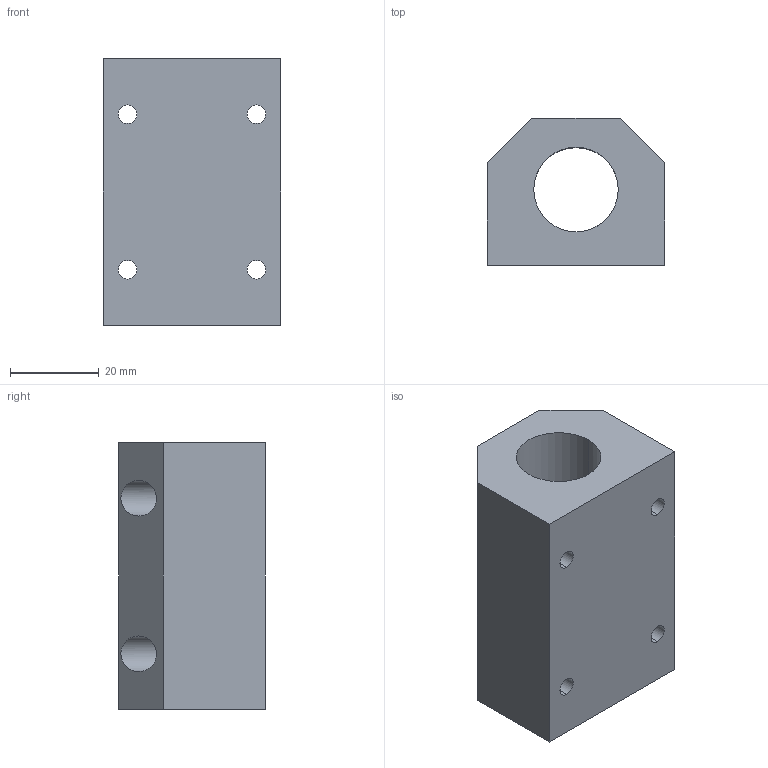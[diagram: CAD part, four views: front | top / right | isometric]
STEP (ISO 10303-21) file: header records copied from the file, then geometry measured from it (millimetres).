
FILE_DESCRIPTION (( 'STEP AP203' ), '1' );
FILE_NAME ('KTGC29-12-1.SLDPRT.step', '2020-05-14T12:46:30', ( '' ), ( '' ), 'SwSTEP 2.0', 'SolidWorks 2019', '' );
FILE_SCHEMA (( 'CONFIG_CONTROL_DESIGN' ));
Length unit declared in the file: millimetre
Products named in the file (2): KTGC29-12-1.SLDPRT
Bounding box: 40 x 33 x 60 mm (x, y, z)
Volume: 52318.2 mm3; surface area: 15606.9 mm2
Topology: 1 solids, 1 shells, 32 faces, 78 edges, 52 vertices
Faces by surface type: cylinder 20, plane 12
Entity records: 1199 total; most frequent: CARTESIAN_POINT 260, DIRECTION 166, ORIENTED_EDGE 156, EDGE_CURVE 78, AXIS2_PLACEMENT_3D 64, VERTEX_POINT 52, EDGE_LOOP 48, VECTOR 38
